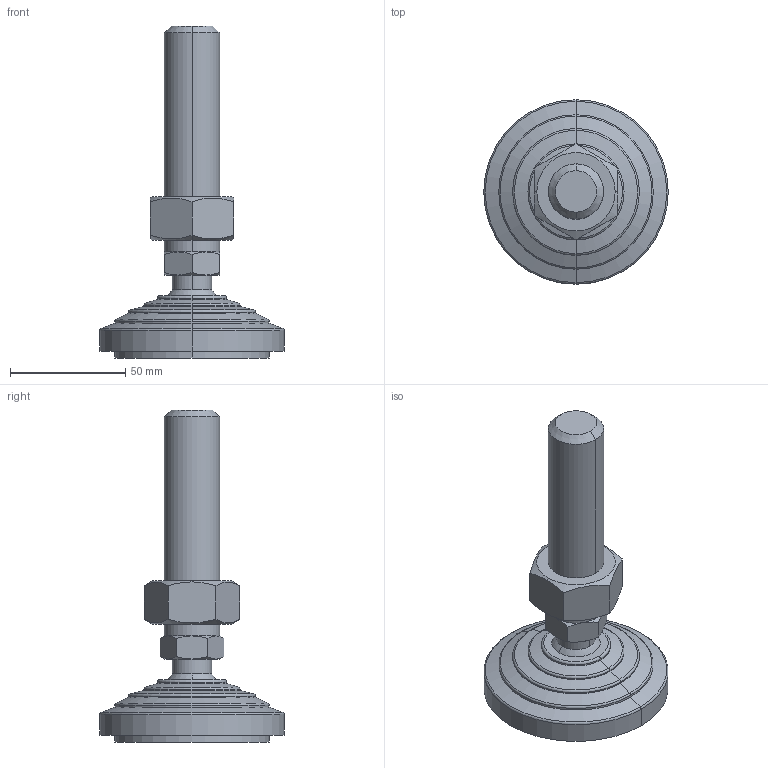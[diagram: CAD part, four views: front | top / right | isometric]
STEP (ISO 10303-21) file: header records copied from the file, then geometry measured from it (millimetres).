
FILE_DESCRIPTION (( 'STEP AP203' ), '1' );
FILE_NAME ('lvar80l24a.STEP', '2021-10-25T03:38:22', ( '' ), ( '' ), 'SwSTEP 2.0', 'SolidWorks 2020', '' );
FILE_SCHEMA (( 'CONFIG_CONTROL_DESIGN' ));
Length unit declared in the file: millimetre
Products named in the file (3): lvar80l24a_02; lvar80l24a; lvar80l24a_01
Assembly tree (2 placements, depth 2):
  lvar80l24a
    lvar80l24a_01
    lvar80l24a_02
Bounding box: 80 x 80 x 144 mm (x, y, z)
Volume: 157108.6 mm3; surface area: 27964.3 mm2
Topology: 2 solids, 2 shells, 76 faces, 162 edges, 94 vertices
Faces by surface type: cone 26, plane 20, cylinder 18, torus 10, sphere 2
Entity records: 2569 total; most frequent: CARTESIAN_POINT 643, DIRECTION 366, ORIENTED_EDGE 324, EDGE_CURVE 162, AXIS2_PLACEMENT_3D 161, VERTEX_POINT 94, EDGE_LOOP 82, CIRCLE 80
